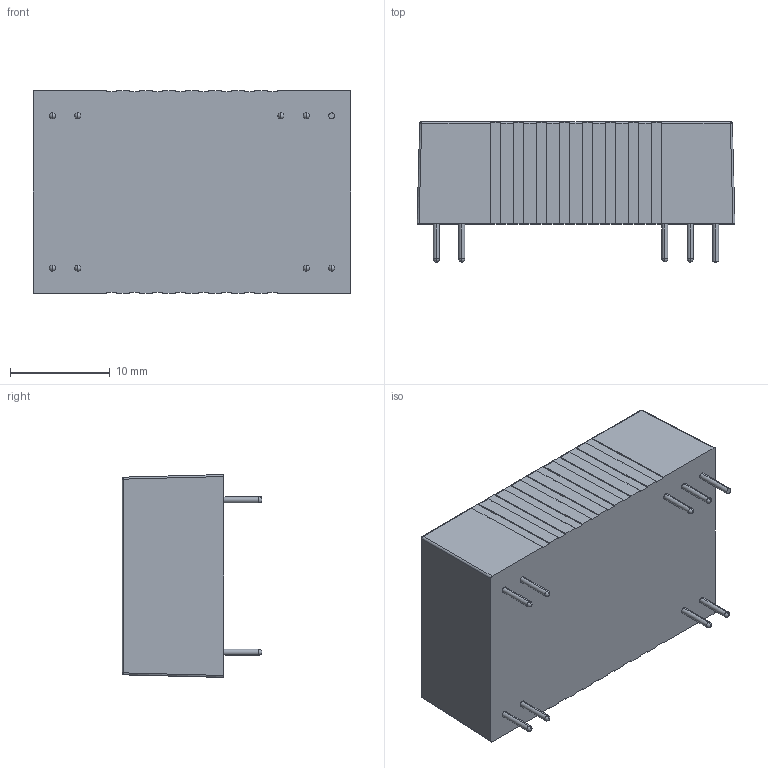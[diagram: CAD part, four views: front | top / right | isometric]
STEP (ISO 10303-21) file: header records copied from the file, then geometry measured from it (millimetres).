
FILE_DESCRIPTION (( 'STEP AP214' ), '1' );
FILE_NAME ('TFI 20.STEP', '2019-02-15T00:38:41', ( 'user' ), ( '' ), 'SwSTEP 2.0', 'SolidWorks 2016', '' );
FILE_SCHEMA (( 'AUTOMOTIVE_DESIGN' ));
Length unit declared in the file: millimetre
Products named in the file (1): TFI 20
Bounding box: 31.8 x 14 x 20.3 mm (x, y, z)
Volume: 6435.5 mm3; surface area: 2396.8 mm2
Topology: 1 solids, 1 shells, 120 faces, 340 edges, 212 vertices
Faces by surface type: plane 72, cylinder 28, sphere 20
Entity records: 4027 total; most frequent: DIRECTION 642, CARTESIAN_POINT 633, ORIENTED_EDGE 608, EDGE_CURVE 304, AXIS2_PLACEMENT_3D 221, LINE 200, VECTOR 200, VERTEX_POINT 196
